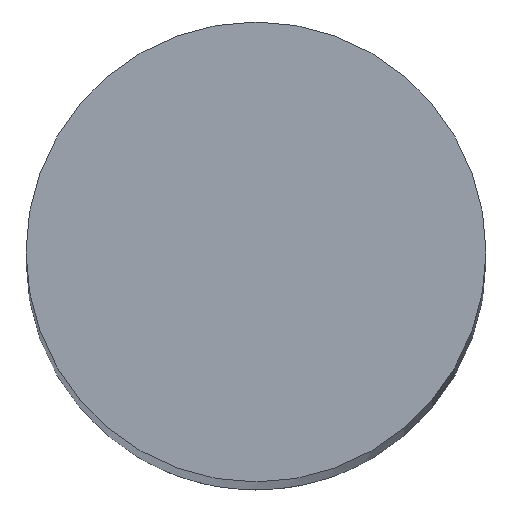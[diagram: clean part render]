
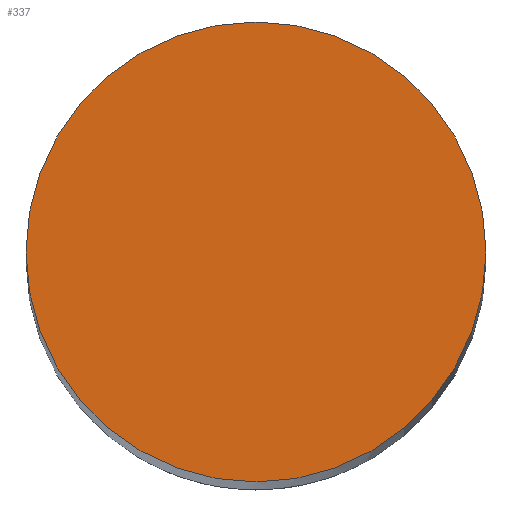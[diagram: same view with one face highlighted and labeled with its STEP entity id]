
A CAD part, top view. The second image highlights one B-rep face of the part: STEP entity #337.
In plain terms, the highlighted planar face has unit normal (0, 0, 1).
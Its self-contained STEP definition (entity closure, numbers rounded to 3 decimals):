
#5 = DIRECTION ( 'NONE',  ( 0., 0., 1. ) ) ;
#54 = AXIS2_PLACEMENT_3D ( 'NONE', #63, #57, #61 ) ;
#57 = DIRECTION ( 'NONE',  ( 0., 0., 1. ) ) ;
#61 = DIRECTION ( 'NONE',  ( 1., 0., 0. ) ) ;
#63 = CARTESIAN_POINT ( 'NONE',  ( 0.448, 0.513, 200. ) ) ;
#84 = DIRECTION ( 'NONE',  ( 0., 0., 1. ) ) ;
#90 = AXIS2_PLACEMENT_3D ( 'NONE', #381, #84, #343 ) ;
#99 = CARTESIAN_POINT ( 'NONE',  ( -9.552, 0.513, 200. ) ) ;
#141 = EDGE_LOOP ( 'NONE', ( #346, #218 ) ) ;
#148 = VERTEX_POINT ( 'NONE', #170 ) ;
#169 = EDGE_CURVE ( 'NONE', #148, #216, #213, .T. ) ;
#170 = CARTESIAN_POINT ( 'NONE',  ( 10.448, 0.513, 200. ) ) ;
#176 = EDGE_CURVE ( 'NONE', #216, #148, #330, .T. ) ;
#178 = DIRECTION ( 'NONE',  ( 1., 0., 0. ) ) ;
#182 = PLANE ( 'NONE',  #54 ) ;
#213 = CIRCLE ( 'NONE', #90, 10. ) ;
#216 = VERTEX_POINT ( 'NONE', #99 ) ;
#218 = ORIENTED_EDGE ( 'NONE', *, *, #169, .T. ) ;
#330 = CIRCLE ( 'NONE', #362, 10. ) ;
#337 = ADVANCED_FACE ( 'NONE', ( #379 ), #182, .T. ) ;
#343 = DIRECTION ( 'NONE',  ( 1., 0., 0. ) ) ;
#346 = ORIENTED_EDGE ( 'NONE', *, *, #176, .T. ) ;
#349 = CARTESIAN_POINT ( 'NONE',  ( 0.448, 0.513, 200. ) ) ;
#362 = AXIS2_PLACEMENT_3D ( 'NONE', #349, #5, #178 ) ;
#379 = FACE_OUTER_BOUND ( 'NONE', #141, .T. ) ;
#381 = CARTESIAN_POINT ( 'NONE',  ( 0.448, 0.513, 200. ) ) ;
